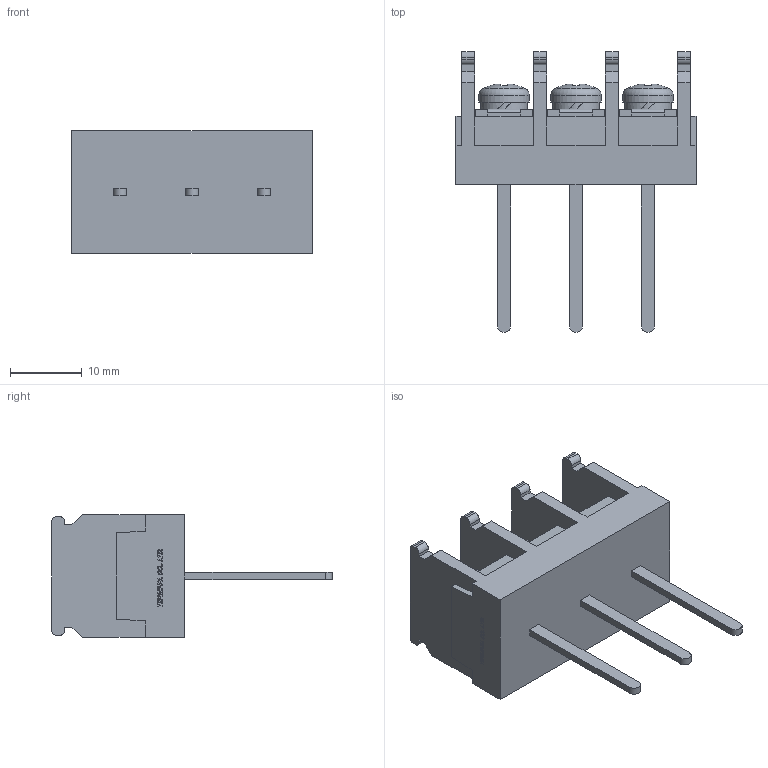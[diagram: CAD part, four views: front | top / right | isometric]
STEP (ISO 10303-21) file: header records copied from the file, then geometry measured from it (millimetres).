
FILE_DESCRIPTION(/* description */ ('Alibre Inc.'),/* implementation_level */ '2;1');
FILE_NAME(/* name */ 'export0',/* time_stamp */ '2015-10-17T17:05:55+09:00',/* author */ (''),/* organization */ (''),/* preprocessor_version */ 'ST-DEVELOPER v14',/* originating_system */ 'Alibre',/* authorisation */ '');
FILE_SCHEMA (('CONFIG_CONTROL_DESIGN'));
Length unit declared in the file: centimetre
Products named in the file (1): ID_1
Bounding box: 33.4 x 39 x 17 mm (x, y, z)
Volume: 6553.8 mm3; surface area: 4320.2 mm2
Topology: 1 solids, 17 shells, 609 faces, 1629 edges, 1083 vertices
Faces by surface type: plane 450, bspline 104, cylinder 34, cone 12, torus 6, sphere 3
Full cylindrical faces by diameter (mm): 4 x3, 6.5 x3, 7 x3
Entity records: 18410 total; most frequent: CARTESIAN_POINT 4310, ORIENTED_EDGE 3216, DIRECTION 2080, EDGE_CURVE 1608, VECTOR 1220, LINE 1220, VERTEX_POINT 1074, EDGE_LOOP 664
